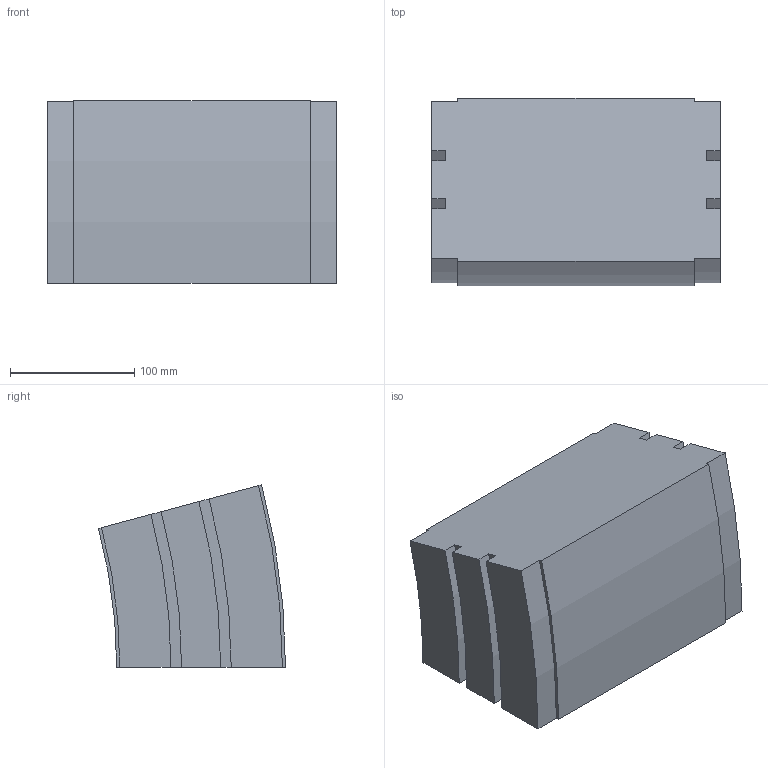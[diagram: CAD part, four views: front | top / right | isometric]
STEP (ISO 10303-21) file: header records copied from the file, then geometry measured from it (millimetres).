
FILE_DESCRIPTION (( 'STEP AP214' ), '1' );
FILE_NAME ('02.150V15.230.N FS-230-MTC-150 Bocht verticaal 15°.STEP', '2013-03-29T12:51:16', ( 'Gebruiker' ), ( '' ), 'SwSTEP 2.0', 'SolidWorks 2012', '' );
FILE_SCHEMA (( 'AUTOMOTIVE_DESIGN' ));
Length unit declared in the file: millimetre
Products named in the file (1): 02.150V15.230.N FS-230-MTC-150 Bocht verticaal 15°
Bounding box: 232.5 x 150.72 x 147.01 mm (x, y, z)
Volume: 4062602.9 mm3; surface area: 170064.2 mm2
Topology: 1 solids, 1 shells, 30 faces, 84 edges, 56 vertices
Faces by surface type: plane 16, cylinder 14
Entity records: 1010 total; most frequent: DIRECTION 174, CARTESIAN_POINT 171, ORIENTED_EDGE 168, EDGE_CURVE 84, AXIS2_PLACEMENT_3D 59, VERTEX_POINT 56, VECTOR 56, LINE 56
